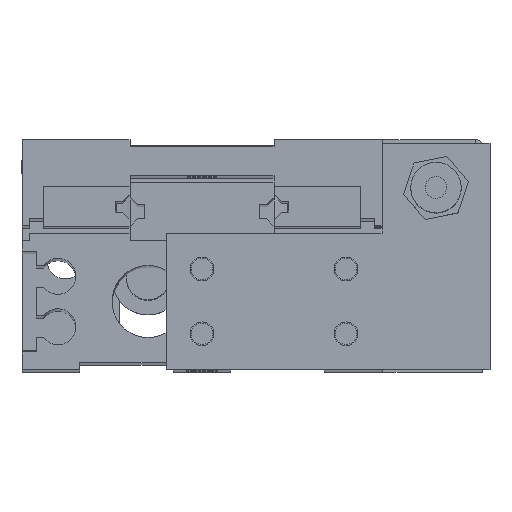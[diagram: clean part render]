
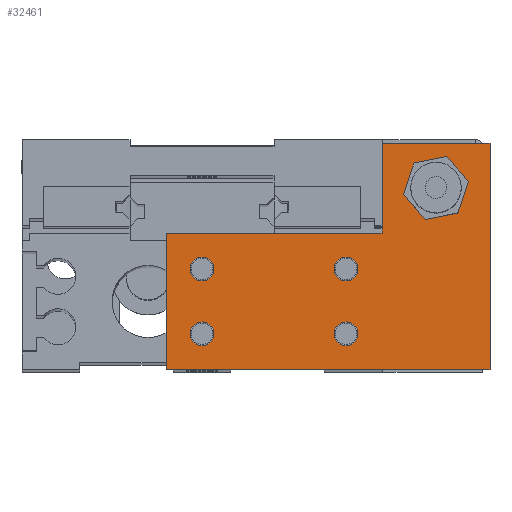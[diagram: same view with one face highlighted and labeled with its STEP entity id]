
A CAD part, top view. The second image highlights one B-rep face of the part: STEP entity #32461.
In plain terms, the highlighted planar face has unit normal (0, 0, 1).
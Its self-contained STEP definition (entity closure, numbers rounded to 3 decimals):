
#25717 = DIRECTION ( 'NONE',  ( 1., 0., 0. ) ) ;
#25718 = DIRECTION ( 'NONE',  ( 0., 0., 1. ) ) ;
#25719 = CARTESIAN_POINT ( 'NONE',  ( 22.5, 15.75, 8. ) ) ;
#25720 = AXIS2_PLACEMENT_3D ( 'NONE', #25719, #25718, #25717 ) ;
#25730 = CIRCLE ( 'NONE', #25720, 3.5 ) ;
#25733 = CARTESIAN_POINT ( 'NONE',  ( 26., 15.75, 8. ) ) ;
#25736 = CARTESIAN_POINT ( 'NONE',  ( 8.35, -4.5, 8. ) ) ;
#25888 = CIRCLE ( 'NONE', #25933, 1.65 ) ;
#25909 = CARTESIAN_POINT ( 'NONE',  ( -11.65, -4.5, 8. ) ) ;
#25926 = DIRECTION ( 'NONE',  ( 1., 0., 0. ) ) ;
#25927 = DIRECTION ( 'NONE',  ( 0., 0., 1. ) ) ;
#25928 = CARTESIAN_POINT ( 'NONE',  ( -10., 4.5, 8. ) ) ;
#25933 = AXIS2_PLACEMENT_3D ( 'NONE', #25928, #25927, #25926 ) ;
#26041 = CARTESIAN_POINT ( 'NONE',  ( -15., -9.5, 8. ) ) ;
#26050 = CARTESIAN_POINT ( 'NONE',  ( -8.35, 4.5, 8. ) ) ;
#26063 = CARTESIAN_POINT ( 'NONE',  ( -11.65, 4.5, 8. ) ) ;
#26081 = CARTESIAN_POINT ( 'NONE',  ( 11.65, 4.5, 8. ) ) ;
#26082 = CARTESIAN_POINT ( 'NONE',  ( 8.35, 4.5, 8. ) ) ;
#26105 = DIRECTION ( 'NONE',  ( 0., 0., 1. ) ) ;
#26108 = CARTESIAN_POINT ( 'NONE',  ( 10., 4.5, 8. ) ) ;
#26179 = DIRECTION ( 'NONE',  ( 1., 0., 0. ) ) ;
#26181 = AXIS2_PLACEMENT_3D ( 'NONE', #26108, #26105, #26179 ) ;
#26182 = CIRCLE ( 'NONE', #26181, 1.65 ) ;
#26183 = CARTESIAN_POINT ( 'NONE',  ( -15., 9.5, 8. ) ) ;
#26228 = CIRCLE ( 'NONE', #26237, 1.65 ) ;
#26237 = AXIS2_PLACEMENT_3D ( 'NONE', #26285, #26266, #26265 ) ;
#26242 = CARTESIAN_POINT ( 'NONE',  ( 11.65, -4.5, 8. ) ) ;
#26244 = CARTESIAN_POINT ( 'NONE',  ( 19., 15.75, 8. ) ) ;
#26252 = AXIS2_PLACEMENT_3D ( 'NONE', #26320, #26310, #26309 ) ;
#26255 = CIRCLE ( 'NONE', #26252, 1.65 ) ;
#26265 = DIRECTION ( 'NONE',  ( 1., 0., 0. ) ) ;
#26266 = DIRECTION ( 'NONE',  ( 0., 0., 1. ) ) ;
#26285 = CARTESIAN_POINT ( 'NONE',  ( 10., -4.5, 8. ) ) ;
#26286 = CARTESIAN_POINT ( 'NONE',  ( -8.35, -4.5, 8. ) ) ;
#26298 = DIRECTION ( 'NONE',  ( 1., 0., 0. ) ) ;
#26299 = VECTOR ( 'NONE', #26298, 1000. ) ;
#26300 = CARTESIAN_POINT ( 'NONE',  ( -15., -9.5, 8. ) ) ;
#26305 = LINE ( 'NONE', #26300, #26299 ) ;
#26309 = DIRECTION ( 'NONE',  ( 1., 0., 0. ) ) ;
#26310 = DIRECTION ( 'NONE',  ( 0., 0., 1. ) ) ;
#26320 = CARTESIAN_POINT ( 'NONE',  ( -10., -4.5, 8. ) ) ;
#26350 = DIRECTION ( 'NONE',  ( 0., -1., 0. ) ) ;
#26352 = VECTOR ( 'NONE', #26350, 1000. ) ;
#26353 = CARTESIAN_POINT ( 'NONE',  ( -15., 9.5, 8. ) ) ;
#26354 = LINE ( 'NONE', #26353, #26352 ) ;
#26367 = CARTESIAN_POINT ( 'NONE',  ( 30., -9.5, 8. ) ) ;
#26374 = CARTESIAN_POINT ( 'NONE',  ( 15., 9.5, 8. ) ) ;
#26382 = CARTESIAN_POINT ( 'NONE',  ( 15., 22., 8. ) ) ;
#26411 = DIRECTION ( 'NONE',  ( 0., 1., 0. ) ) ;
#26412 = VECTOR ( 'NONE', #26411, 1000. ) ;
#26419 = LINE ( 'NONE', #26420, #26412 ) ;
#26420 = CARTESIAN_POINT ( 'NONE',  ( 30., 22., 8. ) ) ;
#26522 = CARTESIAN_POINT ( 'NONE',  ( 30., 22., 8. ) ) ;
#26653 = DIRECTION ( 'NONE',  ( -1., 0., 0. ) ) ;
#26654 = VECTOR ( 'NONE', #26653, 1000. ) ;
#26655 = CARTESIAN_POINT ( 'NONE',  ( 15., 22., 8. ) ) ;
#26657 = LINE ( 'NONE', #26655, #26654 ) ;
#26700 = DIRECTION ( 'NONE',  ( 1., 0., 0. ) ) ;
#26702 = DIRECTION ( 'NONE',  ( 0., 0., 1. ) ) ;
#26703 = CARTESIAN_POINT ( 'NONE',  ( 10., -4.5, 8. ) ) ;
#26705 = CIRCLE ( 'NONE', #26757, 1.65 ) ;
#26713 = DIRECTION ( 'NONE',  ( 1., 0., 0. ) ) ;
#26714 = DIRECTION ( 'NONE',  ( 0., 0., 1. ) ) ;
#26715 = CARTESIAN_POINT ( 'NONE',  ( -10., -4.5, 8. ) ) ;
#26716 = CIRCLE ( 'NONE', #26725, 1.65 ) ;
#26717 = AXIS2_PLACEMENT_3D ( 'NONE', #26715, #26714, #26713 ) ;
#26718 = DIRECTION ( 'NONE',  ( -1., 0., 0. ) ) ;
#26719 = VECTOR ( 'NONE', #26718, 1000. ) ;
#26720 = CARTESIAN_POINT ( 'NONE',  ( -15., 9.5, 8. ) ) ;
#26721 = LINE ( 'NONE', #26720, #26719 ) ;
#26722 = CIRCLE ( 'NONE', #26717, 1.65 ) ;
#26725 = AXIS2_PLACEMENT_3D ( 'NONE', #26703, #26702, #26700 ) ;
#26734 = AXIS2_PLACEMENT_3D ( 'NONE', #26751, #26778, #26777 ) ;
#26735 = FACE_OUTER_BOUND ( 'NONE', #32444, .T. ) ;
#26736 = DIRECTION ( 'NONE',  ( 0., -1., 0. ) ) ;
#26737 = VECTOR ( 'NONE', #26736, 1000. ) ;
#26738 = FACE_BOUND ( 'NONE', #32467, .T. ) ;
#26739 = CARTESIAN_POINT ( 'NONE',  ( 15., 9.5, 8. ) ) ;
#26740 = LINE ( 'NONE', #26739, #26737 ) ;
#26741 = CIRCLE ( 'NONE', #26790, 3.5 ) ;
#26747 = FACE_BOUND ( 'NONE', #32454, .T. ) ;
#26748 = DIRECTION ( 'NONE',  ( 1., 0., 0. ) ) ;
#26749 = DIRECTION ( 'NONE',  ( 0., 0., 1. ) ) ;
#26750 = CARTESIAN_POINT ( 'NONE',  ( -10., 4.5, 8. ) ) ;
#26751 = CARTESIAN_POINT ( 'NONE',  ( -15., -9.5, 8. ) ) ;
#26752 = PLANE ( 'NONE',  #26734 ) ;
#26754 = DIRECTION ( 'NONE',  ( 1., 0., 0. ) ) ;
#26755 = DIRECTION ( 'NONE',  ( 0., 0., 1. ) ) ;
#26756 = CARTESIAN_POINT ( 'NONE',  ( 10., 4.5, 8. ) ) ;
#26757 = AXIS2_PLACEMENT_3D ( 'NONE', #26756, #26755, #26754 ) ;
#26759 = AXIS2_PLACEMENT_3D ( 'NONE', #26750, #26749, #26748 ) ;
#26760 = CIRCLE ( 'NONE', #26759, 1.65 ) ;
#26777 = DIRECTION ( 'NONE',  ( 1., 0., 0. ) ) ;
#26778 = DIRECTION ( 'NONE',  ( 0., 0., 1. ) ) ;
#26786 = FACE_BOUND ( 'NONE', #32477, .T. ) ;
#26787 = DIRECTION ( 'NONE',  ( 1., 0., 0. ) ) ;
#26788 = DIRECTION ( 'NONE',  ( 0., 0., 1. ) ) ;
#26789 = CARTESIAN_POINT ( 'NONE',  ( 22.5, 15.75, 8. ) ) ;
#26790 = AXIS2_PLACEMENT_3D ( 'NONE', #26789, #26788, #26787 ) ;
#26792 = FACE_BOUND ( 'NONE', #32438, .T. ) ;
#26793 = FACE_BOUND ( 'NONE', #32425, .T. ) ;
#31998 = VERTEX_POINT ( 'NONE', #25736 ) ;
#32007 = EDGE_CURVE ( 'NONE', #32216, #32009, #25730, .T. ) ;
#32009 = VERTEX_POINT ( 'NONE', #25733 ) ;
#32057 = EDGE_CURVE ( 'NONE', #32139, #32141, #25888, .T. ) ;
#32070 = VERTEX_POINT ( 'NONE', #25909 ) ;
#32139 = VERTEX_POINT ( 'NONE', #26063 ) ;
#32141 = VERTEX_POINT ( 'NONE', #26050 ) ;
#32143 = VERTEX_POINT ( 'NONE', #26041 ) ;
#32149 = VERTEX_POINT ( 'NONE', #26081 ) ;
#32151 = VERTEX_POINT ( 'NONE', #26082 ) ;
#32171 = EDGE_CURVE ( 'NONE', #32151, #32149, #26182, .T. ) ;
#32174 = VERTEX_POINT ( 'NONE', #26183 ) ;
#32216 = VERTEX_POINT ( 'NONE', #26244 ) ;
#32217 = VERTEX_POINT ( 'NONE', #26242 ) ;
#32223 = VERTEX_POINT ( 'NONE', #26286 ) ;
#32231 = EDGE_CURVE ( 'NONE', #31998, #32217, #26228, .T. ) ;
#32238 = EDGE_CURVE ( 'NONE', #32070, #32223, #26255, .T. ) ;
#32241 = EDGE_CURVE ( 'NONE', #32143, #32291, #26305, .T. ) ;
#32247 = EDGE_CURVE ( 'NONE', #32174, #32143, #26354, .T. ) ;
#32278 = VERTEX_POINT ( 'NONE', #26382 ) ;
#32286 = VERTEX_POINT ( 'NONE', #26374 ) ;
#32290 = EDGE_CURVE ( 'NONE', #32291, #32334, #26419, .T. ) ;
#32291 = VERTEX_POINT ( 'NONE', #26367 ) ;
#32334 = VERTEX_POINT ( 'NONE', #26522 ) ;
#32353 = ORIENTED_EDGE ( 'NONE', *, *, #32231, .F. ) ;
#32382 = EDGE_CURVE ( 'NONE', #32334, #32278, #26657, .T. ) ;
#32411 = ORIENTED_EDGE ( 'NONE', *, *, #32456, .T. ) ;
#32421 = EDGE_CURVE ( 'NONE', #32286, #32174, #26721, .T. ) ;
#32423 = ORIENTED_EDGE ( 'NONE', *, *, #32241, .T. ) ;
#32424 = ORIENTED_EDGE ( 'NONE', *, *, #32007, .F. ) ;
#32425 = EDGE_LOOP ( 'NONE', ( #32446, #32434 ) ) ;
#32426 = ORIENTED_EDGE ( 'NONE', *, *, #32432, .F. ) ;
#32428 = EDGE_CURVE ( 'NONE', #32223, #32070, #26722, .T. ) ;
#32429 = ORIENTED_EDGE ( 'NONE', *, *, #32290, .T. ) ;
#32432 = EDGE_CURVE ( 'NONE', #32217, #31998, #26716, .T. ) ;
#32434 = ORIENTED_EDGE ( 'NONE', *, *, #32238, .F. ) ;
#32436 = ORIENTED_EDGE ( 'NONE', *, *, #32057, .F. ) ;
#32438 = EDGE_LOOP ( 'NONE', ( #32482, #32424 ) ) ;
#32440 = ORIENTED_EDGE ( 'NONE', *, *, #32171, .F. ) ;
#32441 = EDGE_CURVE ( 'NONE', #32149, #32151, #26705, .T. ) ;
#32442 = ORIENTED_EDGE ( 'NONE', *, *, #32421, .T. ) ;
#32444 = EDGE_LOOP ( 'NONE', ( #32447, #32423, #32429, #32498, #32411, #32442 ) ) ;
#32446 = ORIENTED_EDGE ( 'NONE', *, *, #32428, .F. ) ;
#32447 = ORIENTED_EDGE ( 'NONE', *, *, #32247, .T. ) ;
#32448 = EDGE_CURVE ( 'NONE', #32141, #32139, #26760, .T. ) ;
#32454 = EDGE_LOOP ( 'NONE', ( #32486, #32436 ) ) ;
#32456 = EDGE_CURVE ( 'NONE', #32278, #32286, #26740, .T. ) ;
#32460 = EDGE_CURVE ( 'NONE', #32009, #32216, #26741, .T. ) ;
#32461 = ADVANCED_FACE ( 'NONE', ( #26792, #26738, #26747, #26735, #26793, #26786 ), #26752, .T. ) ;
#32467 = EDGE_LOOP ( 'NONE', ( #32473, #32440 ) ) ;
#32473 = ORIENTED_EDGE ( 'NONE', *, *, #32441, .F. ) ;
#32477 = EDGE_LOOP ( 'NONE', ( #32426, #32353 ) ) ;
#32482 = ORIENTED_EDGE ( 'NONE', *, *, #32460, .F. ) ;
#32486 = ORIENTED_EDGE ( 'NONE', *, *, #32448, .F. ) ;
#32498 = ORIENTED_EDGE ( 'NONE', *, *, #32382, .T. ) ;
